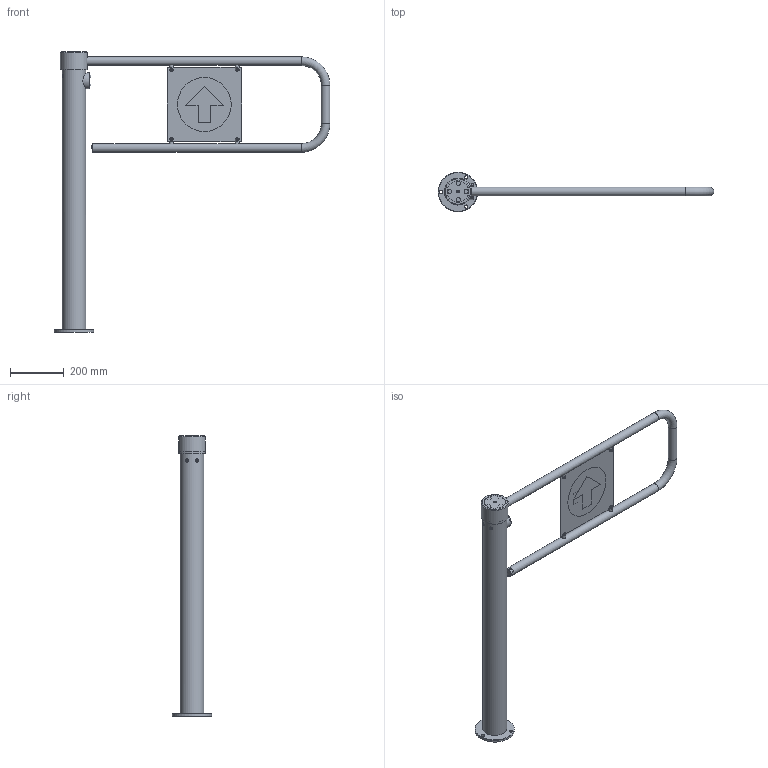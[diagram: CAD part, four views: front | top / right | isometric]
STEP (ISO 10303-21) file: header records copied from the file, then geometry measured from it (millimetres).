
FILE_DESCRIPTION(/* description */ ('Unknown'),/* implementation_level */ '2;1');
FILE_NAME(/* name */ 'WHD-05_900',/* time_stamp */ '2021-11-24T10:17:51+03:00',/* author */ ('Unknown'),/* organization */ ('Unknown'),/* preprocessor_version */ 'ST-DEVELOPER v18.1',/* originating_system */ 'Solid Edge',/* authorisation */ 'Unknown');
FILE_SCHEMA (('CONFIG_CONTROL_DESIGN'));
Length unit declared in the file: millimetre
Products named in the file (23): WHD-05_900; WHD-05.100.00 Ìåõàíèçì âðàùåíèÿ_oa_0; WHD-05.010.00-03 Óçåë âðàùåíèÿ_oa_1; WHD-05.010.02-01 ﾌ瑾魵韭; WHD-05.320.00-03 栺鍣罻; WHD-05.320.02 殲齕; WHD-05.320.01-03 ﾒ矜; WHD-05.340.00-01 Ñòâîðêà â ñáîðå_oa_2; WHD-05.330.00-01 栺碭謤趌oa_3; WHD-05.330.01-01 Ñòâîðêà; Çàãëóøêà_CGR-322-090_(32õ2); 鎔艜_M3x12_DIN_965; WHD-04.300.02 砑僔蠂縺; 腻疰囹咫黖耱尻豚_M.214.00.001_(LINCOS)_oa_4; 腻疰囹咫黖耱尻豚_M.214.00.001_(LINCOS)_oa_5; 腻疰囹咫黖耱尻豚_M.214.00.001_(LINCOS)_oa_6; 腻疰囹咫黖耱尻豚_M.214.00.001_(LINCOS)_oa_7; RTD-14.010.01 Êîðïóñ áëîêà èíäèêàöèè; WHD-05.860.00 Ìîäóëü èíäèêàöèè; WHD-04.300.01 署赅; Âèíò_M4x12_DIN_7991_îêñèä.; 鎔艜_M5x18_DIN_965; 鎔艜_M6x16_DIN_965
Assembly tree (26 placements, depth 4):
  WHD-05_900
    WHD-05.100.00 Ìåõàíèçì âðàùåíèÿ_oa_0
      WHD-05.010.00-03 Óçåë âðàùåíèÿ_oa_1
        WHD-05.010.02-01 ﾌ瑾魵韭
    WHD-05.320.00-03 栺鍣罻
      WHD-05.320.02 殲齕
      WHD-05.320.01-03 ﾒ矜
    WHD-05.340.00-01 Ñòâîðêà â ñáîðå_oa_2
      WHD-05.330.00-01 栺碭謤趌oa_3
        WHD-05.330.01-01 Ñòâîðêà
        Çàãëóøêà_CGR-322-090_(32õ2)
      鎔艜_M3x12_DIN_965  x4
      WHD-04.300.02 砑僔蠂縺
      腻疰囹咫黖耱尻豚_M.214.00.001_(LINCOS)_oa_4
      腻疰囹咫黖耱尻豚_M.214.00.001_(LINCOS)_oa_5
      腻疰囹咫黖耱尻豚_M.214.00.001_(LINCOS)_oa_6
      腻疰囹咫黖耱尻豚_M.214.00.001_(LINCOS)_oa_7
    RTD-14.010.01 Êîðïóñ áëîêà èíäèêàöèè
    WHD-05.860.00 Ìîäóëü èíäèêàöèè
    WHD-04.300.01 署赅
    Âèíò_M4x12_DIN_7991_îêñèä.
    鎔艜_M5x18_DIN_965
    鎔艜_M6x16_DIN_965  x2
Bounding box: 1023.5 x 147 x 1039.5 mm (x, y, z)
Volume: 2341112.5 mm3; surface area: 1181674.9 mm2
Topology: 25 solids, 25 shells, 438 faces, 1054 edges, 673 vertices
Faces by surface type: cylinder 144, plane 144, cone 72, torus 31, sphere 24, bspline 23
Full cylindrical faces by diameter (mm): 2.8 x3, 3 x8, 3.141 x1, 3.242 x1, 3.5 x4, 4 x2, 4.134 x1, 5 x6, 5.5 x4, 6 x5, 6.5 x1, 6.647 x2, 6.9 x4, 7 x2, 7.9 x4, 8 x5, 9 x2, 9.3 x1, 10.7 x2, 11.3 x2, 12 x3, 14 x1, 15 x2, 16 x6, 20 x2, 20.5 x2, 23.4 x1, 27 x4, 28 x1, 32 x5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
Entity records: 13854 total; most frequent: CARTESIAN_POINT 3167, DIRECTION 1787, ORIENTED_EDGE 1540, EDGE_CURVE 770, AXIS2_PLACEMENT_3D 765, EDGE_LOOP 647, FACE_BOUND 647, VERTEX_POINT 567
